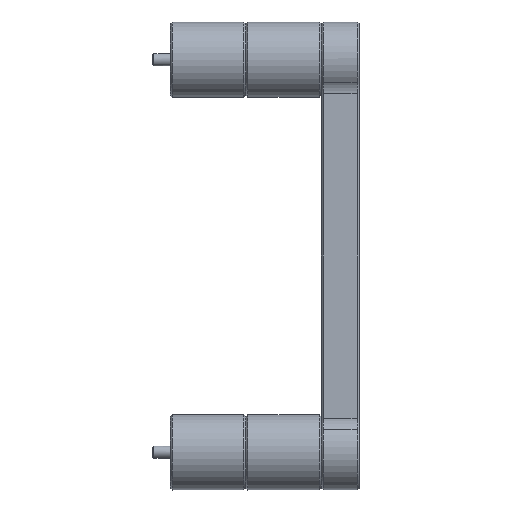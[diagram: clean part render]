
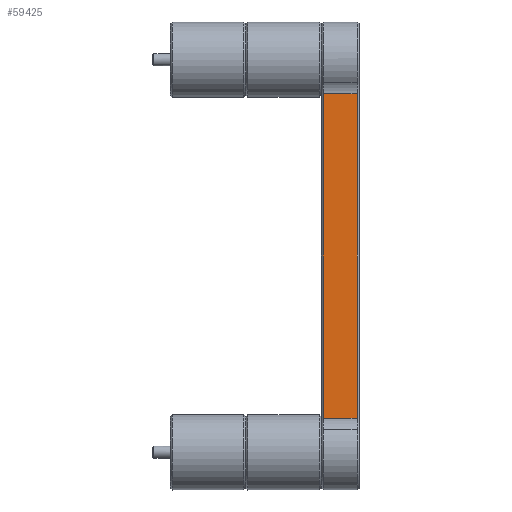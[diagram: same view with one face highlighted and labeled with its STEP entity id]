
A CAD part, left-side view. The second image highlights one B-rep face of the part: STEP entity #59425.
In plain terms, the highlighted planar face has unit normal (-1, 0, 0).
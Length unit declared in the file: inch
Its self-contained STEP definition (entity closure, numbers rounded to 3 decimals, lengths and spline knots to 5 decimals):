
#768 = EDGE_CURVE ( 'NONE', #40418, #27175, #30100, .T. ) ;
#6974 = DIRECTION ( 'NONE',  ( 0., 0., -1. ) ) ;
#9014 = CARTESIAN_POINT ( 'NONE',  ( -2.94879, 0.475, 2.15 ) ) ;
#20996 = DIRECTION ( 'NONE',  ( 0., 0., -1. ) ) ;
#27175 = VERTEX_POINT ( 'NONE', #30002 ) ;
#27908 = EDGE_CURVE ( 'NONE', #28750, #74233, #62615, .T. ) ;
#28527 = CARTESIAN_POINT ( 'NONE',  ( -2.94879, 0.475, 0. ) ) ;
#28750 = VERTEX_POINT ( 'NONE', #79311 ) ;
#30002 = CARTESIAN_POINT ( 'NONE',  ( -2.94879, 0.475, -2.15 ) ) ;
#30016 = CARTESIAN_POINT ( 'NONE',  ( -2.94879, 0.025, 0. ) ) ;
#30100 = LINE ( 'NONE', #28527, #75725 ) ;
#35493 = EDGE_CURVE ( 'NONE', #40418, #28750, #44092, .T. ) ;
#36534 = CARTESIAN_POINT ( 'NONE',  ( -2.94879, 0.025, -2.15 ) ) ;
#39802 = ORIENTED_EDGE ( 'NONE', *, *, #768, .T. ) ;
#40418 = VERTEX_POINT ( 'NONE', #9014 ) ;
#40911 = ORIENTED_EDGE ( 'NONE', *, *, #98556, .F. ) ;
#44092 = LINE ( 'NONE', #101288, #77389 ) ;
#44319 = EDGE_LOOP ( 'NONE', ( #96615, #74869, #39802, #40911 ) ) ;
#44559 = PLANE ( 'NONE',  #95275 ) ;
#47353 = CARTESIAN_POINT ( 'NONE',  ( -2.94879, 0.025, -2.15 ) ) ;
#49022 = VECTOR ( 'NONE', #77865, 39.37008 ) ;
#53287 = CARTESIAN_POINT ( 'NONE',  ( -2.94879, 0.25, -2.15 ) ) ;
#53658 = DIRECTION ( 'NONE',  ( 0., -1., 0. ) ) ;
#59425 = ADVANCED_FACE ( 'NONE', ( #70160 ), #44559, .F. ) ;
#61623 = DIRECTION ( 'NONE',  ( 1., 0., 0. ) ) ;
#62615 = LINE ( 'NONE', #30016, #95672 ) ;
#67746 = LINE ( 'NONE', #53287, #49022 ) ;
#68047 = DIRECTION ( 'NONE',  ( 0., 1., 0. ) ) ;
#70160 = FACE_OUTER_BOUND ( 'NONE', #44319, .T. ) ;
#74233 = VERTEX_POINT ( 'NONE', #47353 ) ;
#74869 = ORIENTED_EDGE ( 'NONE', *, *, #35493, .F. ) ;
#75725 = VECTOR ( 'NONE', #20996, 39.37008 ) ;
#77389 = VECTOR ( 'NONE', #53658, 39.37008 ) ;
#77865 = DIRECTION ( 'NONE',  ( 0., 1., 0. ) ) ;
#79311 = CARTESIAN_POINT ( 'NONE',  ( -2.94879, 0.025, 2.15 ) ) ;
#95275 = AXIS2_PLACEMENT_3D ( 'NONE', #36534, #61623, #68047 ) ;
#95672 = VECTOR ( 'NONE', #6974, 39.37008 ) ;
#96615 = ORIENTED_EDGE ( 'NONE', *, *, #27908, .F. ) ;
#98556 = EDGE_CURVE ( 'NONE', #74233, #27175, #67746, .T. ) ;
#101288 = CARTESIAN_POINT ( 'NONE',  ( -2.94879, 0.25, 2.15 ) ) ;
